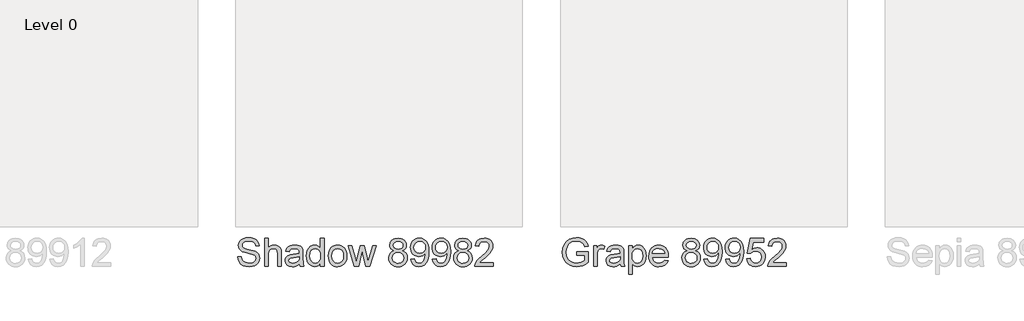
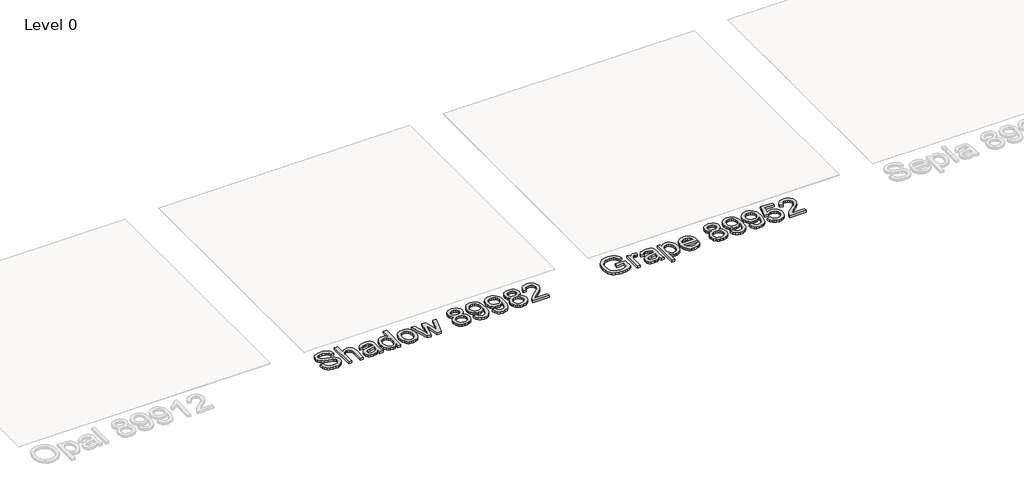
# One storey, part 2 of 4: 2 proxies.
"""IFC4 building model written with IfcOpenShell, lengths in millimetres."""

from ifc_helpers import new_model, si_unit, origin, origin_with_axes, place, context, project, spatial, polyline, outline, extrude, element, save

model = new_model("IFC4")

# Units and contexts
model_context = context("Model", 3, world=origin())
ifc_project = project(units=[si_unit("LENGTHUNIT", "METRE", prefix="MILLI")], contexts=[model_context])

# Site, building, storey
site = spatial("IfcSite", under=ifc_project)
building = spatial("IfcBuilding", under=site)
storey = spatial("IfcBuildingStorey", under=building, Name="Level 0", Elevation=0.0)

# Proxies
placement = place(None, origin())
element("IfcBuildingElementProxy", 1, Name="300mm Arial", ObjectType="300mm Arial", at=placement, inside=storey, context=model_context, shape_type="SweptSolid", body=[
    extrude(outline(polyline([(3271.9359991, 2245.9115217), (3308.859076, 2245.9115217), (3313.0958548, 2225.4217381), (3320.7581145, 2208.9523871), (3332.7112395, 2195.8814737), (3349.8206145, 2185.5870025), (3370.734076, 2178.907315), (3394.0994606, 2176.6807525), (3414.6703741, 2178.3664496), (3432.6811914, 2183.423541), (3447.2755423, 2191.4283487), (3457.5970568, 2201.9571948), (3463.7358789, 2214.0455362), (3465.7821529, 2226.7288294), (3464.249701, 2239.0876035), (3459.6523452, 2249.7696948), (3450.3134029, 2258.8832766), (3434.5561914, 2266.5365217), (3380.7941721, 2280.6350794), (3345.5027058, 2289.9650073), (3322.921576, 2298.8442141), (3304.5411673, 2311.2660891), (3291.515326, 2326.3201756), (3283.7539077, 2343.6819544), (3281.1667683, 2363.0269064), (3284.3668885, 2384.6525073), (3293.9672491, 2404.8177717), (3309.7154462, 2421.9091179), (3331.359076, 2434.3129641), (3357.3386433, 2441.8580362), (3386.0946529, 2444.3730602), (3417.2484991, 2441.7408487), (3444.5081145, 2433.8442141), (3466.8999414, 2420.845416), (3483.4504221, 2402.9067141), (3493.9251818, 2381.1458967), (3498.0898452, 2356.6807525), (3461.1667683, 2356.6807525), (3454.3879221, 2378.7120025), (3440.2533068, 2394.6134448), (3418.1679702, 2404.2408487), (3387.5369606, 2407.4499833), (3356.1847971, 2404.2769064), (3334.6763837, 2394.7576756), (3322.2364798, 2380.7492621), (3318.0898452, 2364.1086371), (3321.0285471, 2349.9199352), (3329.8446529, 2338.5076756), (3350.6859991, 2328.3033487), (3390.1331145, 2317.8826756), (3455.4696529, 2299.3490217), (3476.5183308, 2285.9535891), (3491.202826, 2269.4211371), (3499.8296289, 2249.9319544), (3502.7052298, 2227.6663294), (3499.3969366, 2204.9049112), (3489.4720568, 2183.4956564), (3473.3362395, 2165.0701756), (3451.3951337, 2151.2600794), (3425.0099173, 2142.6332766), (3395.5417683, 2139.7576756), (3359.3668885, 2142.8586371), (3329.5922491, 2152.1615217), (3305.875302, 2167.7023871), (3287.8734991, 2189.517291), (3276.3170087, 2216.0918102), (3271.9359991, 2245.9115217)])), origin_with_axes(), (0.0, 0.0, 1.0), 25.0),
    extrude(outline(polyline([(3553.4744606, 2144.3730602), (3553.4744606, 2439.7576756), (3590.3975375, 2439.7576756), (3590.3975375, 2331.1519064), (3603.9597371, 2346.3592381), (3619.1896048, 2357.2216179), (3636.0871409, 2363.7390458), (3654.6523452, 2365.9115217), (3676.9540279, 2363.5407285), (3696.1186914, 2356.4283487), (3711.2088356, 2345.1332766), (3721.2869606, 2330.2144064), (3726.9660471, 2309.7156083), (3728.859076, 2281.6807525), (3728.859076, 2144.3730602), (3691.9359991, 2144.3730602), (3691.9359991, 2277.8586371), (3688.9972971, 2300.9716179), (3680.1811914, 2316.8009448), (3665.9744606, 2325.9415698), (3646.8638837, 2328.9884448), (3631.2599173, 2326.9331564), (3616.6114798, 2320.767291), (3604.4780664, 2311.0858006), (3596.4191721, 2298.4836371), (3591.9029462, 2281.7348391), (3590.3975375, 2259.6134448), (3590.3975375, 2144.3730602), (3553.4744606, 2144.3730602)])), origin_with_axes(), (0.0, 0.0, 1.0), 25.0),
    extrude(outline(polyline([(3918.0898452, 2172.0653679), (3900.4486193, 2156.939166), (3882.2845568, 2147.0413294), (3863.1829943, 2141.5785891), (3842.7292683, 2139.7576756), (3811.8728981, 2144.1386852), (3789.1114798, 2157.2817141), (3775.0760231, 2177.2396467), (3770.3975375, 2202.0653679), (3772.1643645, 2217.3718583), (3777.4648452, 2231.2720987), (3785.640927, 2243.1711371), (3796.0345568, 2252.4740217), (3821.8879221, 2264.5894064), (3853.8350375, 2270.142291), (3891.5874414, 2275.9836371), (3917.8734991, 2282.8345987), (3918.0898452, 2291.0557525), (3915.5477779, 2307.5341179), (3907.921576, 2318.3153679), (3890.8662875, 2326.3201756), (3867.1042683, 2328.9884448), (3845.109076, 2327.2126035), (3829.7484991, 2321.8850794), (3819.2737395, 2312.032315), (3811.9359991, 2296.6807525), (3775.0129221, 2301.2961371), (3781.422177, 2321.4884448), (3790.9864798, 2337.3538294), (3804.5982587, 2349.4872429), (3823.1499414, 2358.4836371), (3845.8392443, 2364.0545506), (3871.8638837, 2365.9115217), (3896.8248212, 2364.2708967), (3916.6114798, 2359.3490217), (3931.53035, 2351.9481804), (3941.8879221, 2342.8706564), (3948.7569125, 2331.6476996), (3953.2100375, 2317.8105602), (3955.0129221, 2285.5028679), (3955.0129221, 2239.5653679), (3956.8879221, 2175.4187333), (3964.2436914, 2144.3730602), (3927.3206145, 2144.3730602), (3918.0898452, 2172.0653679)]), holes=[polyline([(3918.0898452, 2245.9115217), (3858.5225375, 2234.5894064), (3826.7557106, 2228.6038294), (3812.3686914, 2218.8682525), (3807.3206145, 2204.6615217), (3810.0700135, 2193.6819544), (3818.3182106, 2184.6855602), (3831.8849173, 2178.6819544), (3850.5898452, 2176.6807525), (3870.421576, 2178.8892862), (3887.9456145, 2185.5148871), (3902.1523452, 2195.2775073), (3912.0321529, 2206.8970987), (3916.4131625, 2218.8682525), (3917.8734991, 2235.454791), (3918.0898452, 2245.9115217)])]), origin_with_axes(), (0.0, 0.0, 1.0), 25.0),
    extrude(outline(polyline([(4139.6283068, 2144.3730602), (4139.6283068, 2179.204791), (4128.5811313, 2161.946678), (4115.1992202, 2149.6194544), (4099.4825736, 2142.2231203), (4081.4311914, 2139.7576756), (4057.5609991, 2143.3273871), (4035.7100375, 2154.0365217), (4017.2124414, 2171.1368823), (4003.4023452, 2193.8802717), (3994.8025856, 2221.3472189), (3991.9359991, 2252.6182525), (3994.577225, 2283.501666), (4002.5009029, 2311.392291), (4015.6980183, 2334.7035891), (4034.1595568, 2351.8490217), (4056.4882827, 2362.3958967), (4081.2869606, 2365.9115217), (4099.3518645, 2363.3964977), (4115.3254221, 2355.8514256), (4128.8650856, 2344.2859208), (4139.6283068, 2329.7095987), (4139.6283068, 2439.7576756), (4176.5513837, 2439.7576756), (4176.5513837, 2144.3730602), (4139.6283068, 2144.3730602)]), holes=[polyline([(4028.859076, 2252.7624833), (4033.0237395, 2219.3640458), (4045.5177298, 2195.611041), (4063.6727779, 2181.4133246), (4084.8206145, 2176.6807525), (4105.9594366, 2181.1969785), (4123.6547491, 2194.7456564), (4135.6349173, 2217.57919), (4139.6283068, 2249.9499833), (4135.562802, 2285.3406083), (4123.3662875, 2309.8778679), (4105.2202539, 2324.2108006), (4083.3061914, 2328.9884448), (4061.9420087, 2324.4001035), (4044.4359991, 2310.6350794), (4032.7533068, 2286.9902477), (4028.859076, 2252.7624833)])]), origin_with_axes(), (0.0, 0.0, 1.0), 25.0),
    extrude(outline(polyline([(4222.7052298, 2252.8345987), (4224.7019246, 2280.9280482), (4230.6920087, 2305.1362814), (4240.6754822, 2325.4592982), (4254.6523452, 2341.8970987), (4268.7238596, 2352.4034088), (4284.2557106, 2359.907916), (4301.2478981, 2364.4106203), (4319.7004221, 2365.9115217), (4340.0707647, 2364.0838475), (4358.4894846, 2358.6008246), (4374.956582, 2349.4624532), (4389.4720568, 2336.6687333), (4401.3192623, 2320.6523571), (4409.781552, 2301.8460169), (4414.8589258, 2280.2497129), (4416.5513837, 2255.8634448), (4413.5585952, 2218.5617621), (4404.5802298, 2190.1663294), (4389.8777058, 2168.9013054), (4369.7124414, 2152.9908487), (4345.7611193, 2143.0659689), (4319.7004221, 2139.7576756), (4299.0326036, 2141.5785891), (4280.4426096, 2147.0413294), (4263.9304402, 2156.1458967), (4249.4960952, 2168.892291), (4237.7750916, 2185.064166), (4229.4029462, 2204.4451756), (4224.3796589, 2227.0353198), (4222.7052298, 2252.8345987)]), holes=[polyline([(4259.6283068, 2252.9067141), (4263.9011433, 2219.4902477), (4276.7196529, 2195.6831564), (4296.0105183, 2181.4313535), (4319.7004221, 2176.6807525), (4343.2821529, 2181.4583967), (4362.5369606, 2195.7913294), (4375.3554702, 2219.9139256), (4379.6283068, 2254.0605602), (4375.328427, 2286.5034689), (4362.4287875, 2309.986041), (4343.1469366, 2324.2378439), (4319.7004221, 2328.9884448), (4296.0105183, 2324.2558727), (4276.7196529, 2310.0581564), (4263.9011433, 2286.3051516), (4259.6283068, 2252.9067141)])]), origin_with_axes(), (0.0, 0.0, 1.0), 25.0),
    extrude(outline(polyline([(4494.0754221, 2144.3730602), (4428.0898452, 2361.2961371), (4466.4552298, 2361.2961371), (4503.8831145, 2234.7336371), (4515.0609991, 2189.517291), (4524.2196529, 2233.0749833), (4554.0033068, 2361.2961371), (4597.9936914, 2361.2961371), (4627.6331145, 2233.4355602), (4635.7821529, 2193.9884448), (4647.4648452, 2235.5990217), (4684.9648452, 2361.2961371), (4723.4744606, 2361.2961371), (4656.984076, 2144.3730602), (4612.3446529, 2144.3730602), (4584.0033068, 2271.5845987), (4575.7821529, 2311.2480602), (4539.2196529, 2144.3730602), (4494.0754221, 2144.3730602)])), origin_with_axes(), (0.0, 0.0, 1.0), 25.0),
    extrude(outline(polyline([(4908.8109991, 2307.0653679), (4889.0423693, 2316.8009448), (4875.1691721, 2329.9980602), (4866.9750616, 2346.3862814), (4864.2436914, 2365.6951756), (4870.1932106, 2394.5593583), (4888.0417683, 2418.4115217), (4900.9278861, 2427.7504641), (4915.7881625, 2434.4211371), (4951.4311914, 2439.7576756), (4987.2905664, 2434.2949352), (5002.3131024, 2427.4665097), (5015.3975375, 2417.9067141), (5033.5706145, 2393.6759448), (5038.1138837, 2379.7757044), (5039.6283068, 2364.6855602), (5036.9329943, 2345.9986612), (5028.8470568, 2329.8898871), (5015.28035, 2316.7739016), (4996.1427298, 2307.0653679), (5018.8680904, 2295.3556323), (5035.4095568, 2278.111041), (5045.4966962, 2256.1609208), (5048.859076, 2230.3345987), (5047.1914077, 2211.9181323), (5042.1884029, 2195.0341179), (5033.8500616, 2179.6825554), (5022.1763837, 2165.8634448), (5007.78035, 2154.4421708), (4991.2749414, 2146.2841179), (4972.6601577, 2141.3892862), (4951.9359991, 2139.7576756), (4931.2118404, 2141.396047), (4912.5970568, 2146.3111612), (4896.0916481, 2154.5030181), (4881.6956145, 2165.9716179), (4870.0219366, 2179.8876335), (4861.6835952, 2195.4217381), (4856.6805904, 2212.5739316), (4855.0129221, 2231.3442141), (4858.5105183, 2258.1711371), (4869.0033068, 2280.2384448), (4885.9504221, 2296.7889256), (4908.8109991, 2307.0653679)]), holes=[polyline([(4891.9359991, 2232.642291), (4898.1018645, 2204.8418102), (4906.6385231, 2192.9157285), (4919.9167683, 2184.0365217), (4935.8182106, 2178.5196948), (4952.2244606, 2176.6807525), (4977.3566721, 2180.54794), (4996.2148452, 2192.1495025), (5008.0057106, 2209.7186131), (5011.9359991, 2231.4884448), (5007.8795087, 2253.6278679), (4995.7100375, 2271.5845987), (4976.4191721, 2283.4836371), (4950.9984991, 2287.4499833), (4926.21785, 2283.5377237), (4907.5489798, 2271.8009448), (4895.8392443, 2254.1867621), (4891.9359991, 2232.642291)]), polyline([(4901.1667683, 2364.6134448), (4904.4390039, 2348.4956564), (4914.2557106, 2335.6230602), (4930.328427, 2327.1855602), (4952.3686914, 2324.3730602), (4973.8951337, 2327.1675314), (4989.7244606, 2335.5509448), (4999.4600375, 2347.9908487), (5002.7052298, 2362.954791), (4999.3518645, 2378.4866419), (4989.2917683, 2391.3321948), (4973.2460952, 2399.9589977), (4951.9359991, 2402.8345987), (4930.4906866, 2400.0220987), (4914.4720568, 2391.5845987), (4904.4930904, 2379.2168102), (4901.1667683, 2364.6134448)])]), origin_with_axes(), (0.0, 0.0, 1.0), 25.0),
    extrude(outline(polyline([(5085.7821529, 2218.2192141), (5122.7052298, 2222.8345987), (5129.015326, 2201.876065), (5139.2917683, 2187.6062333), (5153.2821529, 2179.4121227), (5170.734076, 2176.6807525), (5186.3921289, 2178.438565), (5200.6259029, 2183.7120025), (5212.452826, 2191.9241419), (5220.890326, 2202.4980602), (5232.9696529, 2234.5894064), (5238.3061914, 2277.4259448), (5238.0898452, 2284.6374833), (5225.2983789, 2269.0245025), (5208.5585952, 2256.6567141), (5189.078427, 2248.5978198), (5168.0658068, 2245.9115217), (5150.5259931, 2247.5521467), (5134.3969366, 2252.4740217), (5119.6786373, 2260.6771467), (5106.3710952, 2272.1615217), (5095.3442022, 2286.3276876), (5087.46785, 2302.5761852), (5082.7420387, 2320.9070145), (5081.1667683, 2341.3201756), (5082.8186613, 2362.4139256), (5087.7743404, 2381.3442141), (5096.0338056, 2398.111041), (5107.5970568, 2412.7144064), (5121.6482887, 2424.5458367), (5137.3716962, 2432.9968583), (5154.7672791, 2438.0674713), (5173.8350375, 2439.7576756), (5201.3741, 2435.8995025), (5226.4432106, 2424.3249833), (5247.4107587, 2405.611041), (5262.6451337, 2380.3345987), (5271.920975, 2345.3946948), (5275.0129221, 2297.6903679), (5271.9299895, 2247.11044), (5262.6811914, 2208.0148871), (5247.3476577, 2178.6368823), (5226.0105183, 2157.2095987), (5199.5892443, 2144.1206564), (5169.0033068, 2139.7576756), (5137.4347971, 2144.9049112), (5112.2484991, 2160.3466179), (5094.6343164, 2185.1092381), (5085.7821529, 2218.2192141)]), holes=[polyline([(5238.0898452, 2342.1855602), (5234.1054702, 2367.2095987), (5222.1523452, 2386.4644064), (5203.6006625, 2398.7420506), (5179.8206145, 2402.8345987), (5155.1571529, 2398.4265458), (5135.3975375, 2385.2023871), (5122.4167683, 2364.9650073), (5118.0898452, 2339.517291), (5122.1823933, 2316.7017862), (5134.4600375, 2298.5918102), (5153.7328741, 2286.7739016), (5178.8109991, 2282.8345987), (5202.4017443, 2286.7739016), (5221.3951337, 2298.5918102), (5233.9161673, 2317.3688535), (5238.0898452, 2342.1855602)])]), origin_with_axes(), (0.0, 0.0, 1.0), 25.0),
    extrude(outline(polyline([(5311.9359991, 2218.2192141), (5348.859076, 2222.8345987), (5355.1691721, 2201.876065), (5365.4456145, 2187.6062333), (5379.4359991, 2179.4121227), (5396.8879221, 2176.6807525), (5412.545975, 2178.438565), (5426.7797491, 2183.7120025), (5438.6066721, 2191.9241419), (5447.0441721, 2202.4980602), (5459.1234991, 2234.5894064), (5464.4600375, 2277.4259448), (5464.2436914, 2284.6374833), (5451.452225, 2269.0245025), (5434.7124414, 2256.6567141), (5415.2322731, 2248.5978198), (5394.2196529, 2245.9115217), (5376.6798392, 2247.5521467), (5360.5507827, 2252.4740217), (5345.8324834, 2260.6771467), (5332.5249414, 2272.1615217), (5321.4980484, 2286.3276876), (5313.6216962, 2302.5761852), (5308.8958849, 2320.9070145), (5307.3206145, 2341.3201756), (5308.9725075, 2362.4139256), (5313.9281866, 2381.3442141), (5322.1876517, 2398.111041), (5333.7509029, 2412.7144064), (5347.8021349, 2424.5458367), (5363.5255423, 2432.9968583), (5380.9211253, 2438.0674713), (5399.9888837, 2439.7576756), (5427.5279462, 2435.8995025), (5452.5970568, 2424.3249833), (5473.5646048, 2405.611041), (5488.7989798, 2380.3345987), (5498.0748212, 2345.3946948), (5501.1667683, 2297.6903679), (5498.0838356, 2247.11044), (5488.8350375, 2208.0148871), (5473.5015039, 2178.6368823), (5452.1643645, 2157.2095987), (5425.7430904, 2144.1206564), (5395.1571529, 2139.7576756), (5363.5886433, 2144.9049112), (5338.4023452, 2160.3466179), (5320.7881625, 2185.1092381), (5311.9359991, 2218.2192141)]), holes=[polyline([(5464.2436914, 2342.1855602), (5460.2593164, 2367.2095987), (5448.3061914, 2386.4644064), (5429.7545087, 2398.7420506), (5405.9744606, 2402.8345987), (5381.3109991, 2398.4265458), (5361.5513837, 2385.2023871), (5348.5706145, 2364.9650073), (5344.2436914, 2339.517291), (5348.3362395, 2316.7017862), (5360.6138837, 2298.5918102), (5379.8867202, 2286.7739016), (5404.9648452, 2282.8345987), (5428.5555904, 2286.7739016), (5447.5489798, 2298.5918102), (5460.0700135, 2317.3688535), (5464.2436914, 2342.1855602)])]), origin_with_axes(), (0.0, 0.0, 1.0), 25.0),
    extrude(outline(polyline([(5587.2725375, 2307.0653679), (5567.5039077, 2316.8009448), (5553.6307106, 2329.9980602), (5545.4366, 2346.3862814), (5542.7052298, 2365.6951756), (5548.6547491, 2394.5593583), (5566.5033068, 2418.4115217), (5579.3894246, 2427.7504641), (5594.249701, 2434.4211371), (5629.8927298, 2439.7576756), (5665.7521048, 2434.2949352), (5680.7746409, 2427.4665097), (5693.859076, 2417.9067141), (5712.0321529, 2393.6759448), (5716.5754221, 2379.7757044), (5718.0898452, 2364.6855602), (5715.3945327, 2345.9986612), (5707.3085952, 2329.8898871), (5693.7418885, 2316.7739016), (5674.6042683, 2307.0653679), (5697.3296289, 2295.3556323), (5713.8710952, 2278.111041), (5723.9582346, 2256.1609208), (5727.3206145, 2230.3345987), (5725.6529462, 2211.9181323), (5720.6499414, 2195.0341179), (5712.3116, 2179.6825554), (5700.6379221, 2165.8634448), (5686.2418885, 2154.4421708), (5669.7364798, 2146.2841179), (5651.1216962, 2141.3892862), (5630.3975375, 2139.7576756), (5609.6733789, 2141.396047), (5591.0585952, 2146.3111612), (5574.5531866, 2154.5030181), (5560.1571529, 2165.9716179), (5548.483475, 2179.8876335), (5540.1451337, 2195.4217381), (5535.1421289, 2212.5739316), (5533.4744606, 2231.3442141), (5536.9720568, 2258.1711371), (5547.4648452, 2280.2384448), (5564.4119606, 2296.7889256), (5587.2725375, 2307.0653679)]), holes=[polyline([(5570.3975375, 2232.642291), (5576.5634029, 2204.8418102), (5585.1000616, 2192.9157285), (5598.3783068, 2184.0365217), (5614.2797491, 2178.5196948), (5630.6859991, 2176.6807525), (5655.8182106, 2180.54794), (5674.6763837, 2192.1495025), (5686.4672491, 2209.7186131), (5690.3975375, 2231.4884448), (5686.3410471, 2253.6278679), (5674.171576, 2271.5845987), (5654.8807106, 2283.4836371), (5629.4600375, 2287.4499833), (5604.6793885, 2283.5377237), (5586.0105183, 2271.8009448), (5574.3007827, 2254.1867621), (5570.3975375, 2232.642291)]), polyline([(5579.6283068, 2364.6134448), (5582.9005423, 2348.4956564), (5592.7172491, 2335.6230602), (5608.7899654, 2327.1855602), (5630.8302298, 2324.3730602), (5652.3566721, 2327.1675314), (5668.1859991, 2335.5509448), (5677.921576, 2347.9908487), (5681.1667683, 2362.954791), (5677.8134029, 2378.4866419), (5667.7533068, 2391.3321948), (5651.7076337, 2399.9589977), (5630.3975375, 2402.8345987), (5608.952225, 2400.0220987), (5592.9335952, 2391.5845987), (5582.9546289, 2379.2168102), (5579.6283068, 2364.6134448)])]), origin_with_axes(), (0.0, 0.0, 1.0), 25.0),
    extrude(outline(polyline([(5948.859076, 2181.2961371), (5948.859076, 2144.3730602), (5755.0129221, 2144.3730602), (5758.9792683, 2169.829791), (5768.0838356, 2189.7246227), (5781.4071529, 2209.0245025), (5800.6799895, 2229.2258246), (5827.6331145, 2251.8249833), (5867.4768645, 2287.2156083), (5891.3831145, 2313.3394064), (5903.3362395, 2334.5413294), (5907.3206145, 2355.1663294), (5903.5616, 2373.6549112), (5892.2845568, 2389.0245025), (5874.9498212, 2399.3820746), (5853.0177298, 2402.8345987), (5829.9858789, 2399.4632044), (5812.0922491, 2389.3490217), (5800.5447731, 2373.2853198), (5796.5513837, 2352.0653679), (5759.6283068, 2356.6807525), (5768.5796289, 2392.3958967), (5776.9562815, 2406.6431924), (5787.9335952, 2418.4836371), (5801.2591661, 2427.791029), (5816.6805904, 2434.439166), (5853.8109991, 2439.7576756), (5873.5999113, 2438.2793102), (5891.2118404, 2433.8442141), (5906.6467863, 2426.4523871), (5919.9047491, 2416.1038294), (5930.5530363, 2403.5647669), (5938.1589558, 2389.6014256), (5942.7225075, 2374.2138054), (5944.2436914, 2357.4019064), (5942.6030664, 2339.7426516), (5937.6811914, 2322.3898871), (5928.9462154, 2304.7396467), (5915.8662875, 2286.1879641), (5895.015927, 2264.0395266), (5862.9696529, 2235.5990217), (5820.4936914, 2200.0821948), (5803.8350375, 2181.2961371), (5948.859076, 2181.2961371)])), origin_with_axes(), (0.0, 0.0, 1.0), 25.0),
])
element("IfcBuildingElementProxy", 2, Name="300mm Arial", ObjectType="300mm Arial", at=placement, inside=storey, context=model_context, shape_type="SweptSolid", body=[
    extrude(outline(polyline([(6824.2436914, 2259.7576756), (6824.2436914, 2296.6807525), (6944.2436914, 2296.6807525), (6944.2436914, 2186.2720987), (6915.0820327, 2165.9896467), (6885.0009029, 2151.4403679), (6854.0724173, 2142.6783487), (6822.3686914, 2139.7576756), (6780.9474173, 2144.4001035), (6743.5105183, 2158.3273871), (6712.4107587, 2181.0527477), (6690.0009029, 2212.0894064), (6676.452225, 2249.3189737), (6671.9359991, 2290.6230602), (6676.4341962, 2332.2246227), (6689.9287875, 2370.923541), (6711.8608789, 2403.3844785), (6741.671576, 2426.2720987), (6777.9816721, 2439.8478198), (6819.4119606, 2444.3730602), (6849.8266241, 2441.7498631), (6877.1763837, 2433.8802717), (6900.2082346, 2421.3321948), (6917.6691721, 2404.673541), (6930.5868404, 2383.1020266), (6939.9888837, 2355.8153679), (6905.9504221, 2346.2240217), (6898.3512635, 2365.6861612), (6889.1114798, 2380.3706564), (6876.8879221, 2391.4403679), (6860.3374414, 2400.0581564), (6840.6048693, 2405.6020266), (6818.8350375, 2407.4499833), (6793.3512635, 2405.4577958), (6771.5634029, 2399.4812333), (6753.5525856, 2390.2684929), (6739.3999414, 2378.5677717), (6720.3975375, 2350.1182525), (6711.7436914, 2322.2456564), (6708.859076, 2292.1374833), (6712.3296289, 2256.8279881), (6722.7412875, 2227.7745025), (6739.7785471, 2205.1843583), (6763.1259029, 2189.2648871), (6790.4486193, 2179.8267862), (6819.4119606, 2176.6807525), (6844.9858789, 2179.0515458), (6869.9287875, 2186.1639256), (6891.5904462, 2195.9626035), (6907.3206145, 2206.392291), (6907.3206145, 2259.7576756), (6824.2436914, 2259.7576756)])), origin_with_axes(), (0.0, 0.0, 1.0), 25.0),
    extrude(outline(polyline([(6999.6283068, 2144.3730602), (6999.6283068, 2361.2961371), (7031.9359991, 2361.2961371), (7031.9359991, 2329.204791), (7043.8710952, 2347.8105602), (7054.8686914, 2358.7720987), (7065.9023452, 2364.126666), (7077.9456145, 2365.9115217), (7096.3350375, 2363.0629641), (7115.0129221, 2354.517291), (7102.6811914, 2321.4163294), (7089.7004221, 2327.095416), (7076.7196529, 2328.9884448), (7065.6950135, 2327.1675314), (7055.8422491, 2321.704791), (7047.8825135, 2313.0148871), (7042.5369606, 2301.5124833), (7038.0477779, 2280.8874833), (7036.5513837, 2258.3874833), (7036.5513837, 2144.3730602), (6999.6283068, 2144.3730602)])), origin_with_axes(), (0.0, 0.0, 1.0), 25.0),
    extrude(outline(polyline([(7276.5513837, 2172.0653679), (7258.9101577, 2156.939166), (7240.7460952, 2147.0413294), (7221.6445327, 2141.5785891), (7201.1908068, 2139.7576756), (7170.3344366, 2144.1386852), (7147.5730183, 2157.2817141), (7133.5375616, 2177.2396467), (7128.859076, 2202.0653679), (7130.6259029, 2217.3718583), (7135.9263837, 2231.2720987), (7144.1024654, 2243.1711371), (7154.4960952, 2252.4740217), (7180.3494606, 2264.5894064), (7212.296576, 2270.142291), (7250.0489798, 2275.9836371), (7276.3350375, 2282.8345987), (7276.5513837, 2291.0557525), (7274.0093164, 2307.5341179), (7266.3831145, 2318.3153679), (7249.327826, 2326.3201756), (7225.5658068, 2328.9884448), (7203.5706145, 2327.2126035), (7188.2100375, 2321.8850794), (7177.7352779, 2312.032315), (7170.3975375, 2296.6807525), (7133.4744606, 2301.2961371), (7139.8837154, 2321.4884448), (7149.4480183, 2337.3538294), (7163.0597971, 2349.4872429), (7181.6114798, 2358.4836371), (7204.3007827, 2364.0545506), (7230.3254221, 2365.9115217), (7255.2863596, 2364.2708967), (7275.0730183, 2359.3490217), (7289.9918885, 2351.9481804), (7300.3494606, 2342.8706564), (7307.218451, 2331.6476996), (7311.671576, 2317.8105602), (7313.4744606, 2285.5028679), (7313.4744606, 2239.5653679), (7315.3494606, 2175.4187333), (7322.7052298, 2144.3730602), (7285.7821529, 2144.3730602), (7276.5513837, 2172.0653679)]), holes=[polyline([(7276.5513837, 2245.9115217), (7216.984076, 2234.5894064), (7185.2172491, 2228.6038294), (7170.8302298, 2218.8682525), (7165.7821529, 2204.6615217), (7168.531552, 2193.6819544), (7176.7797491, 2184.6855602), (7190.3464558, 2178.6819544), (7209.0513837, 2176.6807525), (7228.8831145, 2178.8892862), (7246.4071529, 2185.5148871), (7260.6138837, 2195.2775073), (7270.4936914, 2206.8970987), (7274.874701, 2218.8682525), (7276.3350375, 2235.454791), (7276.5513837, 2245.9115217)])]), origin_with_axes(), (0.0, 0.0, 1.0), 25.0),
    extrude(outline(polyline([(7364.2436914, 2061.2961371), (7364.2436914, 2361.2961371), (7401.1667683, 2361.2961371), (7401.1667683, 2325.0942141), (7413.2100375, 2342.9517862), (7426.6956145, 2355.7071948), (7442.4167683, 2363.36044), (7461.1667683, 2365.9115217), (7486.1367202, 2362.3418102), (7507.9696529, 2351.6326756), (7525.7460952, 2334.4331564), (7538.546576, 2311.392291), (7546.280951, 2284.1867621), (7548.859076, 2254.4932525), (7545.9474173, 2222.9157285), (7537.2124414, 2194.673541), (7522.9335952, 2171.1999833), (7503.390326, 2153.9283487), (7480.6289077, 2143.3003439), (7456.6956145, 2139.7576756), (7439.7214558, 2142.1284689), (7424.5682106, 2149.2408487), (7411.5964558, 2159.9770266), (7401.1667683, 2173.2192141), (7401.1667683, 2061.2961371), (7364.2436914, 2061.2961371)]), holes=[polyline([(7401.1667683, 2251.1038294), (7405.1601577, 2218.0028679), (7417.140326, 2194.8538294), (7434.8176096, 2181.2240217), (7455.9023452, 2176.6807525), (7477.3296289, 2181.3862814), (7495.4576337, 2195.5028679), (7507.8164077, 2219.4992621), (7511.9359991, 2253.8442141), (7507.9155664, 2286.7648871), (7495.8542683, 2310.2384448), (7478.2040279, 2324.3009448), (7457.4167683, 2328.9884448), (7436.5483789, 2324.0034689), (7418.2220568, 2309.048541), (7405.4305904, 2284.5924112), (7401.1667683, 2251.1038294)])]), origin_with_axes(), (0.0, 0.0, 1.0), 25.0),
    extrude(outline(polyline([(7742.2725375, 2208.9884448), (7778.4744606, 2204.3730602), (7765.4305904, 2177.095416), (7744.6162875, 2156.704791), (7716.500302, 2143.9944544), (7681.5513837, 2139.7576756), (7658.6412274, 2141.5853499), (7638.2280664, 2147.0683727), (7620.3119005, 2156.2067441), (7604.8927298, 2169.0004641), (7592.4933909, 2185.0934629), (7583.6367202, 2204.1296708), (7578.3227178, 2226.1090879), (7576.5513837, 2251.0317141), (7578.3407467, 2276.7994424), (7583.7088356, 2299.5112814), (7592.6556505, 2319.1672309), (7605.1811914, 2335.767291), (7620.5597971, 2348.9553919), (7638.0658068, 2358.3754641), (7657.6992202, 2364.0275073), (7679.4600375, 2365.9115217), (7700.5199834, 2364.0320145), (7719.5652058, 2358.3934929), (7736.5957046, 2348.9959568), (7751.6114798, 2335.8394064), (7763.8688416, 2319.275404), (7772.6241, 2299.6555121), (7777.8772551, 2276.9797309), (7779.6283068, 2251.2480602), (7779.4119606, 2241.2961371), (7613.4744606, 2241.2961371), (7619.8656866, 2213.657916), (7634.7124414, 2193.3394064), (7656.139725, 2180.845416), (7682.2725375, 2176.6807525), (7701.9239798, 2178.6098391), (7718.4744606, 2184.3970987), (7731.9239798, 2194.4031083), (7742.2725375, 2208.9884448)]), holes=[polyline([(7613.4744606, 2278.2192141), (7742.7052298, 2278.2192141), (7737.7112395, 2297.7264256), (7727.921576, 2311.6807525), (7706.3951337, 2324.6615217), (7679.3158068, 2328.9884448), (7654.4269846, 2325.5359208), (7633.8470568, 2315.1783487), (7619.5411673, 2299.0335169), (7613.4744606, 2278.2192141)])]), origin_with_axes(), (0.0, 0.0, 1.0), 25.0),
    extrude(outline(polyline([(7976.5033068, 2307.0653679), (7956.734677, 2316.8009448), (7942.8614798, 2329.9980602), (7934.6673693, 2346.3862814), (7931.9359991, 2365.6951756), (7937.8855183, 2394.5593583), (7955.734076, 2418.4115217), (7968.6201938, 2427.7504641), (7983.4804702, 2434.4211371), (8019.1234991, 2439.7576756), (8054.9828741, 2434.2949352), (8070.0054101, 2427.4665097), (8083.0898452, 2417.9067141), (8101.2629221, 2393.6759448), (8105.8061914, 2379.7757044), (8107.3206145, 2364.6855602), (8104.625302, 2345.9986612), (8096.5393645, 2329.8898871), (8082.9726577, 2316.7739016), (8063.8350375, 2307.0653679), (8086.5603981, 2295.3556323), (8103.1018645, 2278.111041), (8113.1890039, 2256.1609208), (8116.5513837, 2230.3345987), (8114.8837154, 2211.9181323), (8109.8807106, 2195.0341179), (8101.5423693, 2179.6825554), (8089.8686914, 2165.8634448), (8075.4726577, 2154.4421708), (8058.9672491, 2146.2841179), (8040.3524654, 2141.3892862), (8019.6283068, 2139.7576756), (7998.9041481, 2141.396047), (7980.2893645, 2146.3111612), (7963.7839558, 2154.5030181), (7949.3879221, 2165.9716179), (7937.7142443, 2179.8876335), (7929.3759029, 2195.4217381), (7924.3728981, 2212.5739316), (7922.7052298, 2231.3442141), (7926.202826, 2258.1711371), (7936.6956145, 2280.2384448), (7953.6427298, 2296.7889256), (7976.5033068, 2307.0653679)]), holes=[polyline([(7959.6283068, 2232.642291), (7965.7941721, 2204.8418102), (7974.3308308, 2192.9157285), (7987.609076, 2184.0365217), (8003.5105183, 2178.5196948), (8019.9167683, 2176.6807525), (8045.0489798, 2180.54794), (8063.9071529, 2192.1495025), (8075.6980183, 2209.7186131), (8079.6283068, 2231.4884448), (8075.5718164, 2253.6278679), (8063.4023452, 2271.5845987), (8044.1114798, 2283.4836371), (8018.6908068, 2287.4499833), (7993.9101577, 2283.5377237), (7975.2412875, 2271.8009448), (7963.531552, 2254.1867621), (7959.6283068, 2232.642291)]), polyline([(7968.859076, 2364.6134448), (7972.1313116, 2348.4956564), (7981.9480183, 2335.6230602), (7998.0207346, 2327.1855602), (8020.0609991, 2324.3730602), (8041.5874414, 2327.1675314), (8057.4167683, 2335.5509448), (8067.1523452, 2347.9908487), (8070.3975375, 2362.954791), (8067.0441721, 2378.4866419), (8056.984076, 2391.3321948), (8040.9384029, 2399.9589977), (8019.6283068, 2402.8345987), (7998.1829943, 2400.0220987), (7982.1643645, 2391.5845987), (7972.1853981, 2379.2168102), (7968.859076, 2364.6134448)])]), origin_with_axes(), (0.0, 0.0, 1.0), 25.0),
    extrude(outline(polyline([(8153.4744606, 2218.2192141), (8190.3975375, 2222.8345987), (8196.7076337, 2201.876065), (8206.984076, 2187.6062333), (8220.9744606, 2179.4121227), (8238.4263837, 2176.6807525), (8254.0844366, 2178.438565), (8268.3182106, 2183.7120025), (8280.1451337, 2191.9241419), (8288.5826337, 2202.4980602), (8300.6619606, 2234.5894064), (8305.9984991, 2277.4259448), (8305.7821529, 2284.6374833), (8292.9906866, 2269.0245025), (8276.2509029, 2256.6567141), (8256.7707346, 2248.5978198), (8235.7581145, 2245.9115217), (8218.2183008, 2247.5521467), (8202.0892443, 2252.4740217), (8187.370945, 2260.6771467), (8174.0634029, 2272.1615217), (8163.0365099, 2286.3276876), (8155.1601577, 2302.5761852), (8150.4343464, 2320.9070145), (8148.859076, 2341.3201756), (8150.510969, 2362.4139256), (8155.4666481, 2381.3442141), (8163.7261133, 2398.111041), (8175.2893645, 2412.7144064), (8189.3405964, 2424.5458367), (8205.0640039, 2432.9968583), (8222.4595868, 2438.0674713), (8241.5273452, 2439.7576756), (8269.0664077, 2435.8995025), (8294.1355183, 2424.3249833), (8315.1030664, 2405.611041), (8330.3374414, 2380.3345987), (8339.6132827, 2345.3946948), (8342.7052298, 2297.6903679), (8339.6222971, 2247.11044), (8330.3734991, 2208.0148871), (8315.0399654, 2178.6368823), (8293.702826, 2157.2095987), (8267.281552, 2144.1206564), (8236.6956145, 2139.7576756), (8205.1271048, 2144.9049112), (8179.9408068, 2160.3466179), (8162.3266241, 2185.1092381), (8153.4744606, 2218.2192141)]), holes=[polyline([(8305.7821529, 2342.1855602), (8301.7977779, 2367.2095987), (8289.8446529, 2386.4644064), (8271.2929702, 2398.7420506), (8247.5129221, 2402.8345987), (8222.8494606, 2398.4265458), (8203.0898452, 2385.2023871), (8190.109076, 2364.9650073), (8185.7821529, 2339.517291), (8189.874701, 2316.7017862), (8202.1523452, 2298.5918102), (8221.4251818, 2286.7739016), (8246.5033068, 2282.8345987), (8270.094052, 2286.7739016), (8289.0874414, 2298.5918102), (8301.608475, 2317.3688535), (8305.7821529, 2342.1855602)])]), origin_with_axes(), (0.0, 0.0, 1.0), 25.0),
    extrude(outline(polyline([(8379.6283068, 2218.2192141), (8416.5513837, 2222.8345987), (8422.8614798, 2201.876065), (8433.1379221, 2187.6062333), (8447.1283068, 2179.4121227), (8464.5802298, 2176.6807525), (8480.2382827, 2178.438565), (8494.4720568, 2183.7120025), (8506.2989798, 2191.9241419), (8514.7364798, 2202.4980602), (8526.8158068, 2234.5894064), (8532.1523452, 2277.4259448), (8531.9359991, 2284.6374833), (8519.1445327, 2269.0245025), (8502.4047491, 2256.6567141), (8482.9245808, 2248.5978198), (8461.9119606, 2245.9115217), (8444.3721469, 2247.5521467), (8428.2430904, 2252.4740217), (8413.5247911, 2260.6771467), (8400.2172491, 2272.1615217), (8389.190356, 2286.3276876), (8381.3140039, 2302.5761852), (8376.5881926, 2320.9070145), (8375.0129221, 2341.3201756), (8376.6648152, 2362.4139256), (8381.6204943, 2381.3442141), (8389.8799594, 2398.111041), (8401.4432106, 2412.7144064), (8415.4944426, 2424.5458367), (8431.21785, 2432.9968583), (8448.613433, 2438.0674713), (8467.6811914, 2439.7576756), (8495.2202539, 2435.8995025), (8520.2893645, 2424.3249833), (8541.2569125, 2405.611041), (8556.4912875, 2380.3345987), (8565.7671289, 2345.3946948), (8568.859076, 2297.6903679), (8565.7761433, 2247.11044), (8556.5273452, 2208.0148871), (8541.1938116, 2178.6368823), (8519.8566721, 2157.2095987), (8493.4353981, 2144.1206564), (8462.8494606, 2139.7576756), (8431.280951, 2144.9049112), (8406.0946529, 2160.3466179), (8388.4804702, 2185.1092381), (8379.6283068, 2218.2192141)]), holes=[polyline([(8531.9359991, 2342.1855602), (8527.9516241, 2367.2095987), (8515.9984991, 2386.4644064), (8497.4468164, 2398.7420506), (8473.6667683, 2402.8345987), (8449.0033068, 2398.4265458), (8429.2436914, 2385.2023871), (8416.2629221, 2364.9650073), (8411.9359991, 2339.517291), (8416.0285471, 2316.7017862), (8428.3061914, 2298.5918102), (8447.5790279, 2286.7739016), (8472.6571529, 2282.8345987), (8496.2478981, 2286.7739016), (8515.2412875, 2298.5918102), (8527.7623212, 2317.3688535), (8531.9359991, 2342.1855602)])]), origin_with_axes(), (0.0, 0.0, 1.0), 25.0),
    extrude(outline(polyline([(8601.1667683, 2222.8345987), (8638.0898452, 2227.4499833), (8644.8686914, 2205.2835169), (8656.6956145, 2189.4091179), (8673.5165279, 2179.8628439), (8695.2773452, 2176.6807525), (8721.7436914, 2181.1068342), (8741.5754221, 2194.3850794), (8753.9612395, 2214.9830362), (8758.0898452, 2241.3682525), (8754.2226577, 2266.2120025), (8742.6210952, 2285.2144064), (8723.1950135, 2297.2757044), (8695.8542683, 2301.2961371), (8677.9426096, 2299.6915698), (8663.4384029, 2294.8778679), (8642.7052298, 2278.2192141), (8605.7821529, 2282.8345987), (8638.0898452, 2435.142291), (8781.1667683, 2435.142291), (8781.1667683, 2398.2192141), (8667.9456145, 2398.2192141), (8652.1523452, 2316.8730602), (8678.5285471, 2332.8826756), (8706.1667683, 2338.2192141), (8724.1482887, 2336.5650674), (8740.6649654, 2331.6026275), (8755.7167984, 2323.3318943), (8769.3037875, 2311.7528679), (8780.5515339, 2297.5731804), (8788.5856385, 2281.5004641), (8793.4061012, 2263.5347189), (8795.0129221, 2243.6759448), (8789.2256625, 2206.7528679), (8781.991588, 2190.2925314), (8771.8638837, 2175.1663294), (8756.5213356, 2159.6750434), (8738.6186914, 2148.6098391), (8718.155951, 2141.9707165), (8695.1331145, 2139.7576756), (8658.8680904, 2145.4457766), (8643.5007527, 2152.5559028), (8629.9768645, 2162.5100794), (8618.7246109, 2174.8125133), (8610.172177, 2188.9674112), (8601.1667683, 2222.8345987)])), origin_with_axes(), (0.0, 0.0, 1.0), 25.0),
    extrude(outline(polyline([(9016.5513837, 2181.2961371), (9016.5513837, 2144.3730602), (8822.7052298, 2144.3730602), (8826.671576, 2169.829791), (8835.7761433, 2189.7246227), (8849.0994606, 2209.0245025), (8868.3722971, 2229.2258246), (8895.3254221, 2251.8249833), (8935.1691721, 2287.2156083), (8959.0754221, 2313.3394064), (8971.0285471, 2334.5413294), (8975.0129221, 2355.1663294), (8971.2539077, 2373.6549112), (8959.9768645, 2389.0245025), (8942.6421289, 2399.3820746), (8920.7100375, 2402.8345987), (8897.6781866, 2399.4632044), (8879.7845568, 2389.3490217), (8868.2370808, 2373.2853198), (8864.2436914, 2352.0653679), (8827.3206145, 2356.6807525), (8836.2719366, 2392.3958967), (8844.6485892, 2406.6431924), (8855.6259029, 2418.4836371), (8868.9514738, 2427.791029), (8884.3728981, 2434.439166), (8921.5033068, 2439.7576756), (8941.292219, 2438.2793102), (8958.9041481, 2433.8442141), (8974.339094, 2426.4523871), (8987.5970568, 2416.1038294), (8998.245344, 2403.5647669), (9005.8512635, 2389.6014256), (9010.4148152, 2374.2138054), (9011.9359991, 2357.4019064), (9010.2953741, 2339.7426516), (9005.3734991, 2322.3898871), (8996.6385231, 2304.7396467), (8983.5585952, 2286.1879641), (8962.7082346, 2264.0395266), (8930.6619606, 2235.5990217), (8888.1859991, 2200.0821948), (8871.5273452, 2181.2961371), (9016.5513837, 2181.2961371)])), origin_with_axes(), (0.0, 0.0, 1.0), 25.0),
])

save(model, "model.ifc")
